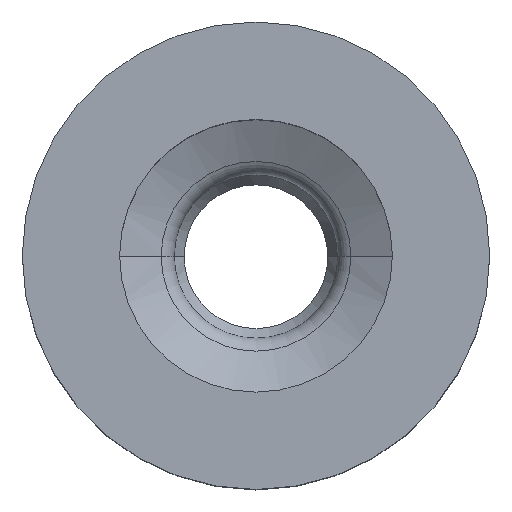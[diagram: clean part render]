
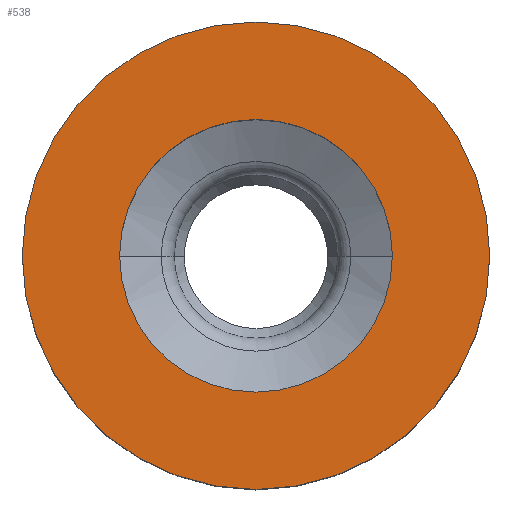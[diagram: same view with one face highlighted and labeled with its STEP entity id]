
A CAD part, top view. The second image highlights one B-rep face of the part: STEP entity #538.
In plain terms, the highlighted planar face has unit normal (0, 0, 1).
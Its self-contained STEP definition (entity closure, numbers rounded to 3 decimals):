
#19 = DIRECTION ( 'NONE',  ( 1., 0., 0. ) ) ;
#33 = CARTESIAN_POINT ( 'NONE',  ( -6., 0., 0. ) ) ;
#41 = CARTESIAN_POINT ( 'NONE',  ( 0., 0., 0. ) ) ;
#44 = DIRECTION ( 'NONE',  ( 0., 0., 1. ) ) ;
#63 = CARTESIAN_POINT ( 'NONE',  ( 0., 0., 0. ) ) ;
#116 = VERTEX_POINT ( 'NONE', #33 ) ;
#151 = CARTESIAN_POINT ( 'NONE',  ( 0., 0., 0. ) ) ;
#154 = FACE_BOUND ( 'NONE', #316, .T. ) ;
#157 = DIRECTION ( 'NONE',  ( 0., 0., 1. ) ) ;
#170 = EDGE_CURVE ( 'NONE', #379, #405, #449, .T. ) ;
#181 = DIRECTION ( 'NONE',  ( 0., 0., -1. ) ) ;
#272 = CARTESIAN_POINT ( 'NONE',  ( -3.5, 0., 0. ) ) ;
#275 = DIRECTION ( 'NONE',  ( 1., 0., 0. ) ) ;
#292 = VERTEX_POINT ( 'NONE', #385 ) ;
#313 = ORIENTED_EDGE ( 'NONE', *, *, #931, .F. ) ;
#315 = ORIENTED_EDGE ( 'NONE', *, *, #380, .T. ) ;
#316 = EDGE_LOOP ( 'NONE', ( #582, #313 ) ) ;
#367 = DIRECTION ( 'NONE',  ( 1., 0., 0. ) ) ;
#379 = VERTEX_POINT ( 'NONE', #453 ) ;
#380 = EDGE_CURVE ( 'NONE', #292, #116, #757, .T. ) ;
#385 = CARTESIAN_POINT ( 'NONE',  ( 6., 0., 0. ) ) ;
#405 = VERTEX_POINT ( 'NONE', #272 ) ;
#449 = CIRCLE ( 'NONE', #450, 3.5 ) ;
#450 = AXIS2_PLACEMENT_3D ( 'NONE', #916, #919, #19 ) ;
#453 = CARTESIAN_POINT ( 'NONE',  ( 3.5, 0., 0. ) ) ;
#492 = AXIS2_PLACEMENT_3D ( 'NONE', #782, #599, #275 ) ;
#524 = PLANE ( 'NONE',  #589 ) ;
#527 = AXIS2_PLACEMENT_3D ( 'NONE', #151, #157, #367 ) ;
#538 = ADVANCED_FACE ( 'NONE', ( #764, #154 ), #524, .F. ) ;
#552 = CIRCLE ( 'NONE', #492, 3.5 ) ;
#582 = ORIENTED_EDGE ( 'NONE', *, *, #170, .F. ) ;
#589 = AXIS2_PLACEMENT_3D ( 'NONE', #41, #181, #652 ) ;
#599 = DIRECTION ( 'NONE',  ( 0., 0., 1. ) ) ;
#645 = ORIENTED_EDGE ( 'NONE', *, *, #659, .T. ) ;
#652 = DIRECTION ( 'NONE',  ( -1., 0., 0. ) ) ;
#659 = EDGE_CURVE ( 'NONE', #116, #292, #661, .T. ) ;
#661 = CIRCLE ( 'NONE', #722, 6. ) ;
#722 = AXIS2_PLACEMENT_3D ( 'NONE', #63, #44, #954 ) ;
#757 = CIRCLE ( 'NONE', #527, 6. ) ;
#764 = FACE_OUTER_BOUND ( 'NONE', #835, .T. ) ;
#782 = CARTESIAN_POINT ( 'NONE',  ( 0., 0., 0. ) ) ;
#835 = EDGE_LOOP ( 'NONE', ( #315, #645 ) ) ;
#916 = CARTESIAN_POINT ( 'NONE',  ( 0., 0., 0. ) ) ;
#919 = DIRECTION ( 'NONE',  ( 0., 0., 1. ) ) ;
#931 = EDGE_CURVE ( 'NONE', #405, #379, #552, .T. ) ;
#954 = DIRECTION ( 'NONE',  ( 1., 0., 0. ) ) ;
